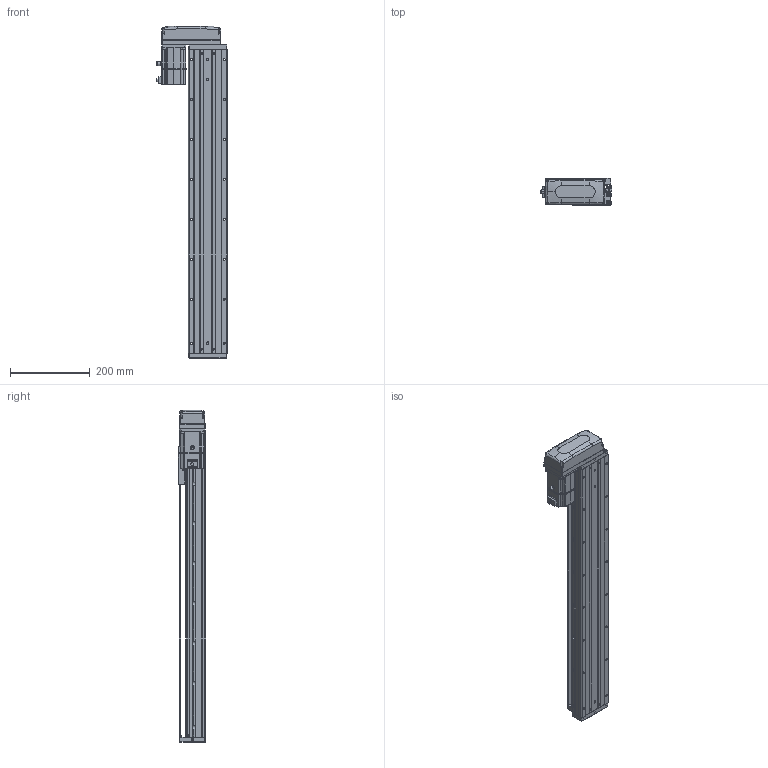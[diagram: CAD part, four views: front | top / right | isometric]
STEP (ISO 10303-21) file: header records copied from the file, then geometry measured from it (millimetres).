
FILE_DESCRIPTION (( 'STEP AP203' ), '1' );
FILE_NAME ('KTHA100-600-BR-M20-C4L.step', '2022-04-26T02:00:29', ( '微软用户' ), ( '微软中国' ), 'SwSTEP 2.0', 'SolidWorks 2020', '' );
FILE_SCHEMA (( 'CONFIG_CONTROL_DESIGN' ));
Length unit declared in the file: millimetre
Products named in the file (17): CTHA60-017; _X2_4E0983F1_X0_200W_1; KTHA100-001_760; CTHA60-021; CTHA86-015-1_CTHA86-015-2; KTHA100-002; GBT77-2000 M3×3; CTHA86-033; KTHA100-004; GBT 70.1-M3℅6; KTHA100-600-BR-M20-C4L; KTHA100-005; GBT70.1 M5℅16; GB¨uT 70.2-M3¡Á5_M3¡Á6; CTHA60-016; EE_SX911P_R; GBT 70.3-M3℅6
Assembly tree (57 placements, depth 2):
  KTHA100-600-BR-M20-C4L
    KTHA100-001_760
    KTHA100-002
    KTHA100-004
    KTHA100-005
    GB¨uT 70.2-M3¡Á5_M3¡Á6  x6
    EE_SX911P_R  x3
    CTHA60-017  x3
    CTHA60-021  x2
    GBT77-2000 M3×3  x6
    GBT 70.1-M3℅6  x10
    GBT70.1 M5℅16  x14
    CTHA60-016  x2
    GBT 70.3-M3℅6  x4
    _X2_4E0983F1_X0_200W_1
    CTHA86-015-1_CTHA86-015-2
    CTHA86-033
Bounding box: 178.52 x 68 x 831 mm (x, y, z)
Volume: 3693976.6 mm3; surface area: 603392 mm2
Topology: 60 solids, 60 shells, 2437 faces, 5833 edges, 3616 vertices
Faces by surface type: plane 1244, cylinder 677, cone 309, torus 116, bspline 75, sphere 16
Entity records: 41948 total; most frequent: CARTESIAN_POINT 8448, DIRECTION 6492, ORIENTED_EDGE 6278, EDGE_CURVE 3139, AXIS2_PLACEMENT_3D 2268, VERTEX_POINT 1976, LINE 1956, VECTOR 1956
